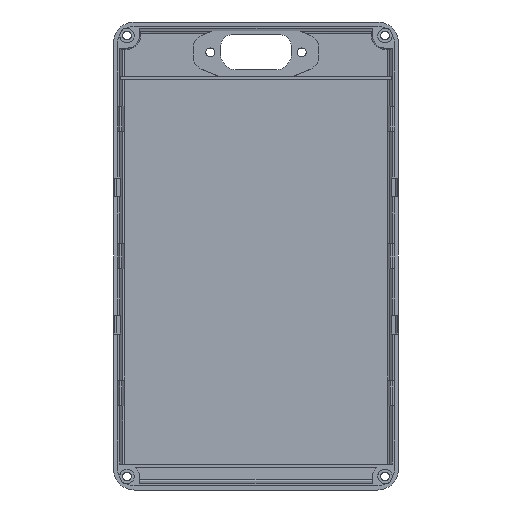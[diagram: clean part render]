
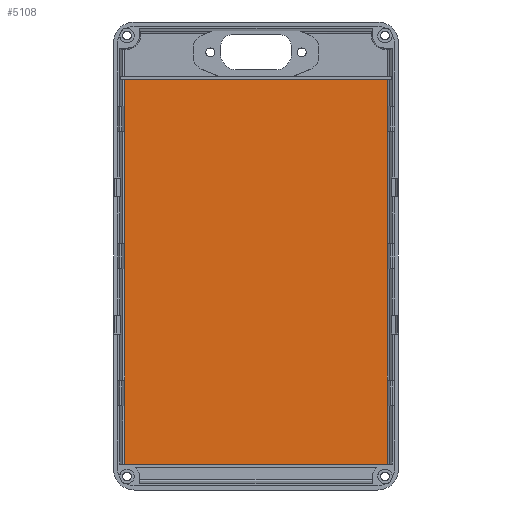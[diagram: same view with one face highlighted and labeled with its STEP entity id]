
A CAD part, top view. The second image highlights one B-rep face of the part: STEP entity #5108.
In plain terms, the highlighted planar face has unit normal (0, 0, 1).
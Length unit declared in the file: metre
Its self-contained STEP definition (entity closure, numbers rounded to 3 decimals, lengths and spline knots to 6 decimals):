
#188=PLANE('',#5528);
#1483=ORIENTED_EDGE('',*,*,#2470,.T.);
#1484=ORIENTED_EDGE('',*,*,#2476,.F.);
#1485=ORIENTED_EDGE('',*,*,#2477,.T.);
#1486=ORIENTED_EDGE('',*,*,#2475,.T.);
#2470=EDGE_CURVE('',#3023,#3024,#3570,.T.);
#2475=EDGE_CURVE('',#3026,#3023,#3572,.T.);
#2476=EDGE_CURVE('',#3027,#3024,#3573,.T.);
#2477=EDGE_CURVE('',#3027,#3026,#3574,.T.);
#3023=VERTEX_POINT('',#8289);
#3024=VERTEX_POINT('',#8290);
#3026=VERTEX_POINT('',#8297);
#3027=VERTEX_POINT('',#8301);
#3570=LINE('',#8288,#4116);
#3572=LINE('',#8298,#4118);
#3573=LINE('',#8300,#4119);
#3574=LINE('',#8302,#4120);
#4116=VECTOR('',#6766,1.);
#4118=VECTOR('',#6776,1.);
#4119=VECTOR('',#6779,1.);
#4120=VECTOR('',#6780,1.);
#4454=EDGE_LOOP('',(#1483,#1484,#1485,#1486));
#4754=FACE_BOUND('',#4454,.T.);
#5108=ADVANCED_FACE('',(#4754),#188,.T.);
#5528=AXIS2_PLACEMENT_3D('',#8299,#6777,#6778);
#6766=DIRECTION('',(0.,1.,0.));
#6776=DIRECTION('',(1.,0.,0.));
#6777=DIRECTION('',(0.,0.,1.));
#6778=DIRECTION('',(1.,0.,0.));
#6779=DIRECTION('',(1.,0.,0.));
#6780=DIRECTION('',(0.,-1.,0.));
#8288=CARTESIAN_POINT('',(0.063216,-0.1,0.003));
#8289=CARTESIAN_POINT('',(0.063216,-0.1,0.003));
#8290=CARTESIAN_POINT('',(0.063216,0.085,0.003));
#8297=CARTESIAN_POINT('',(-0.063216,-0.1,0.003));
#8298=CARTESIAN_POINT('',(-0.063216,-0.1,0.003));
#8299=CARTESIAN_POINT('',(0.,0.,0.003));
#8300=CARTESIAN_POINT('',(-0.063216,0.085,0.003));
#8301=CARTESIAN_POINT('',(-0.063216,0.085,0.003));
#8302=CARTESIAN_POINT('',(-0.063216,0.085,0.003));
